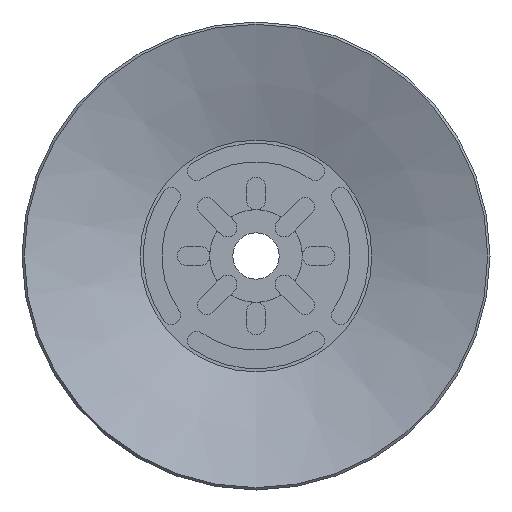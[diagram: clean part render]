
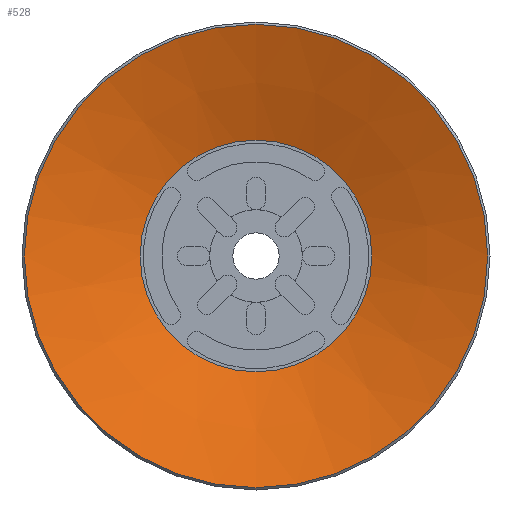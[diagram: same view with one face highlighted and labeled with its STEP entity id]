
A CAD part, front view. The second image highlights one B-rep face of the part: STEP entity #528.
In plain terms, the highlighted conical face has half-angle 70.201 degrees and reference radius 7.5 mm.
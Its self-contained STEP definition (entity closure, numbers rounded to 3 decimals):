
#528=ADVANCED_FACE('',(#858,#859),#860,.F.);
#858=FACE_BOUND('',#1224,.T.);
#859=FACE_OUTER_BOUND('',#1225,.T.);
#860=CONICAL_SURFACE('',#1226,7.5,1.225);
#1224=EDGE_LOOP('',(#2252));
#1225=EDGE_LOOP('',(#2253));
#1226=AXIS2_PLACEMENT_3D('',#2254,#2255,#2256);
#2252=ORIENTED_EDGE('',*,*,#2746,.F.);
#2253=ORIENTED_EDGE('',*,*,#2678,.T.);
#2254=CARTESIAN_POINT('',(0.0,0.0,2.7));
#2255=DIRECTION('',(0.0,0.,-1.0));
#2256=DIRECTION('',(0.0,1.0,0.));
#2678=EDGE_CURVE('',#3186,#3186,#3187,.T.);
#2746=EDGE_CURVE('',#3302,#3302,#3303,.T.);
#3186=VERTEX_POINT('',#4187);
#3187=CIRCLE('',#4188,15.0);
#3302=VERTEX_POINT('',#4327);
#3303=CIRCLE('',#4328,7.5);
#4187=CARTESIAN_POINT('',(0.0,15.0,0.));
#4188=AXIS2_PLACEMENT_3D('',#4792,#4793,#4794);
#4327=CARTESIAN_POINT('',(0.0,7.5,2.7));
#4328=AXIS2_PLACEMENT_3D('',#4948,#4949,#4950);
#4792=CARTESIAN_POINT('',(0.0,0.0,0.0));
#4793=DIRECTION('',(0.0,0.,-1.0));
#4794=DIRECTION('',(0.0,1.0,0.));
#4948=CARTESIAN_POINT('',(0.0,0.0,2.7));
#4949=DIRECTION('',(0.0,0.,-1.0));
#4950=DIRECTION('',(0.0,1.0,0.));
